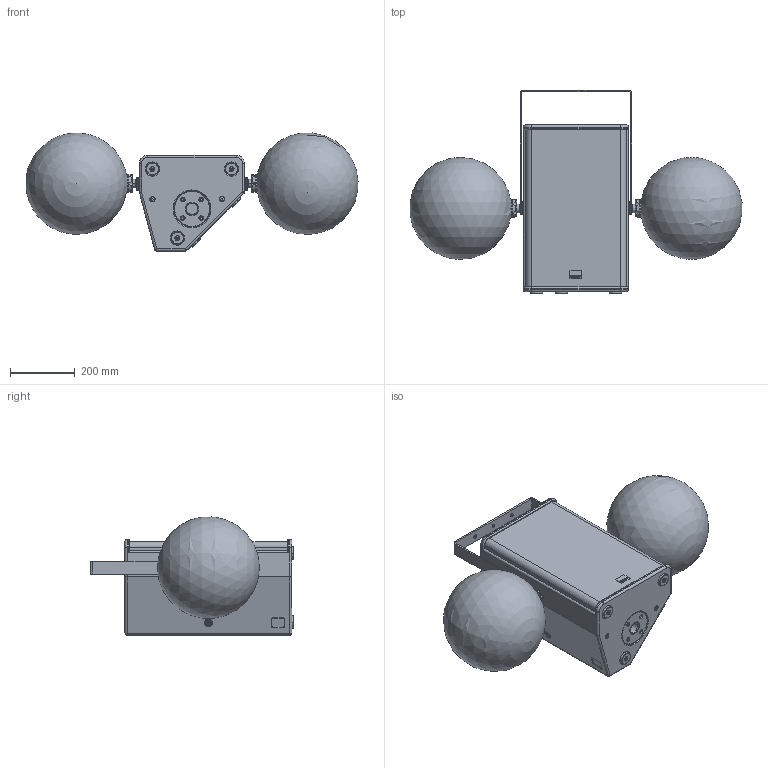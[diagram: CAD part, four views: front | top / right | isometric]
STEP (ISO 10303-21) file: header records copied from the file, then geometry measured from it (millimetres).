
FILE_DESCRIPTION (( 'STEP AP203' ), '1' );
FILE_NAME ('Seeburg_TSM10_Bracket_ver.STEP', '2012-10-17T11:34:21', ( 'Fabian' ), ( '' ), 'SwSTEP 2.0', 'SolidWorks 2009', '' );
FILE_SCHEMA (( 'CONFIG_CONTROL_DESIGN' ));
Length unit declared in the file: millimetre
Products named in the file (2): Seeburg_TSM10_Bracket_ver; TSM10_Bracket-ver
Assembly tree (1 placements, depth 2):
  Seeburg_TSM10_Bracket_ver
    TSM10_Bracket-ver
Bounding box: 1024.43 x 628.5 x 364.27 mm (x, y, z)
Volume: 44395779.2 mm3; surface area: 2200173.6 mm2
Topology: 34 solids, 34 shells, 904 faces, 2145 edges, 1349 vertices
Faces by surface type: cylinder 352, plane 276, torus 130, cone 129, sphere 15, bspline 2
Entity records: 31360 total; most frequent: CARTESIAN_POINT 9957, DIRECTION 4686, ORIENTED_EDGE 4262, EDGE_CURVE 2131, AXIS2_PLACEMENT_3D 1865, VERTEX_POINT 1341, EDGE_LOOP 1038, CIRCLE 959
